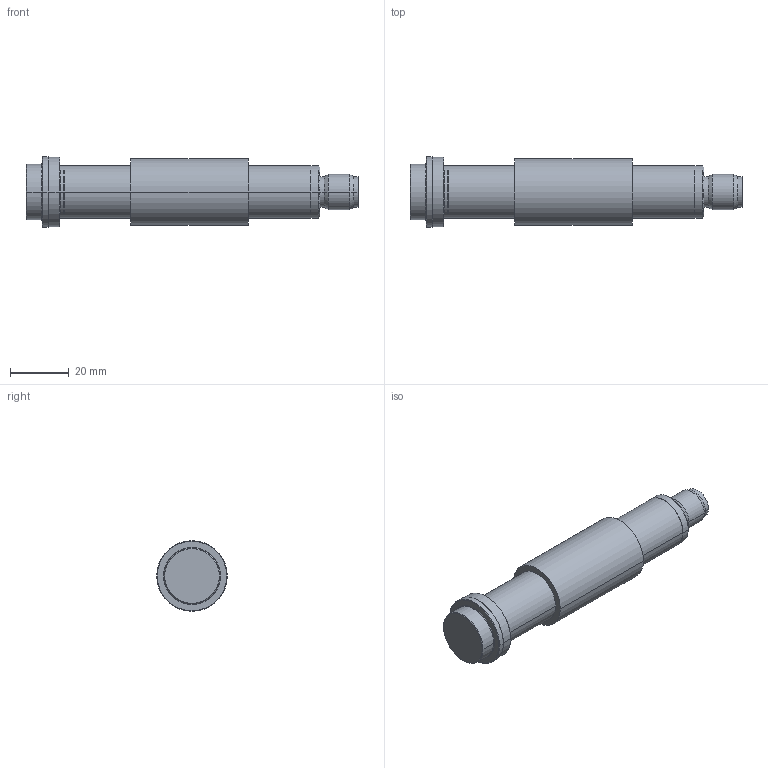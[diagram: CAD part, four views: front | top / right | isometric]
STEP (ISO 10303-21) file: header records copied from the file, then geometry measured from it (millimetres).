
FILE_DESCRIPTION(('STEP AP214'),'1');
FILE_NAME('burster_8107-5_62cwkm607m8o9prag9snb79mz.stp','2017-04-19T14:32:30',('TraceParts'),('TraceParts S.A.'),'Spatial InterOp 3D',' ',' ');
FILE_SCHEMA(('automotive_design'));
Length unit declared in the file: millimetre
Products named in the file (1): burster_8107-5_62cwkm607m8o9prag9snb79mz
Bounding box: 113 x 24 x 24 mm (x, y, z)
Volume: 33324.3 mm3; surface area: 8320.2 mm2
Topology: 1 solids, 3 shells, 82 faces, 164 edges, 100 vertices
Faces by surface type: cylinder 40, cone 22, plane 16, torus 4
Entity records: 2882 total; most frequent: DIRECTION 426, CARTESIAN_POINT 417, ORIENTED_EDGE 328, AXIS2_PLACEMENT_3D 183, EDGE_CURVE 164, VERTEX_POINT 100, CIRCLE 100, EDGE_LOOP 94
